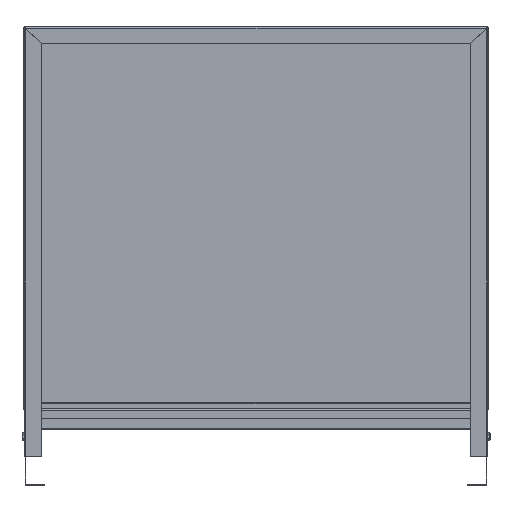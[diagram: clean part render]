
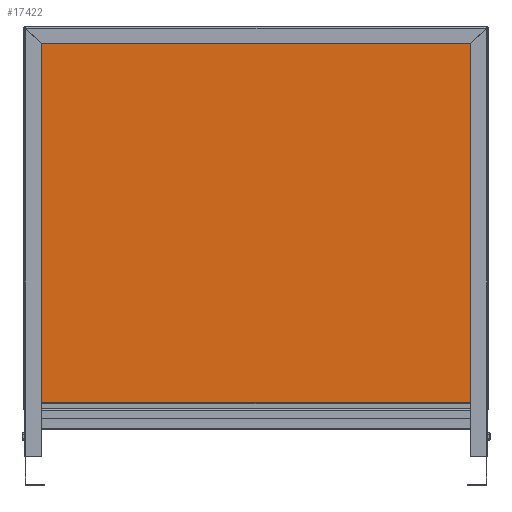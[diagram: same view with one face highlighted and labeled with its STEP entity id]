
A CAD part, front view. The second image highlights one B-rep face of the part: STEP entity #17422.
In plain terms, the highlighted planar face has unit normal (0, -1, 0).
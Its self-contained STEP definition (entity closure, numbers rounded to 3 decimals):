
#12334=CARTESIAN_POINT('',(-325.5,0.8,81.8));
#12335=VERTEX_POINT('',#12334);
#12368=CARTESIAN_POINT('',(-347.771,0.8,647.2));
#12369=VERTEX_POINT('',#12368);
#12399=CARTESIAN_POINT('',(-325.5,0.8,624.929));
#12400=VERTEX_POINT('',#12399);
#12407=CARTESIAN_POINT('',(-325.5,0.8,624.929));
#12408=DIRECTION('',(-0.707,0.,0.707));
#12409=VECTOR('',#12408,31.496);
#12410=LINE('',#12407,#12409);
#12411=EDGE_CURVE('',#12400,#12369,#12410,.T.);
#12436=CARTESIAN_POINT('',(-325.5,0.8,624.929));
#12437=DIRECTION('',(0.,-0.,-1.));
#12438=VECTOR('',#12437,543.129);
#12439=LINE('',#12436,#12438);
#12440=EDGE_CURVE('',#12400,#12335,#12439,.T.);
#12592=CARTESIAN_POINT('',(325.5,0.8,81.8));
#12593=VERTEX_POINT('',#12592);
#12608=CARTESIAN_POINT('',(347.771,0.8,647.2));
#12609=VERTEX_POINT('',#12608);
#12662=CARTESIAN_POINT('',(325.5,0.8,624.929));
#12663=VERTEX_POINT('',#12662);
#12664=CARTESIAN_POINT('',(347.771,0.8,647.2));
#12665=DIRECTION('',(-0.707,-0.,-0.707));
#12666=VECTOR('',#12665,31.496);
#12667=LINE('',#12664,#12666);
#12668=EDGE_CURVE('',#12609,#12663,#12667,.T.);
#12686=CARTESIAN_POINT('',(325.5,0.8,81.8));
#12687=DIRECTION('',(0.,0.,1.));
#12688=VECTOR('',#12687,543.129);
#12689=LINE('',#12686,#12688);
#12690=EDGE_CURVE('',#12593,#12663,#12689,.T.);
#12848=CARTESIAN_POINT('',(-347.629,0.8,647.2));
#12849=VERTEX_POINT('',#12848);
#12856=CARTESIAN_POINT('',(-325.429,0.8,625.));
#12857=VERTEX_POINT('',#12856);
#12858=CARTESIAN_POINT('',(-347.629,0.8,647.2));
#12859=DIRECTION('',(0.707,-0.,-0.707));
#12860=VECTOR('',#12859,31.396);
#12861=LINE('',#12858,#12860);
#12862=EDGE_CURVE('',#12849,#12857,#12861,.T.);
#12909=CARTESIAN_POINT('',(347.629,0.8,647.2));
#12910=VERTEX_POINT('',#12909);
#12941=CARTESIAN_POINT('',(325.429,0.8,625.));
#12942=VERTEX_POINT('',#12941);
#12949=CARTESIAN_POINT('',(325.429,0.8,625.));
#12950=DIRECTION('',(0.707,0.,0.707));
#12951=VECTOR('',#12950,31.396);
#12952=LINE('',#12949,#12951);
#12953=EDGE_CURVE('',#12942,#12910,#12952,.T.);
#12972=CARTESIAN_POINT('',(325.429,0.8,625.));
#12973=DIRECTION('',(-1.,0.,0.));
#12974=VECTOR('',#12973,650.859);
#12975=LINE('',#12972,#12974);
#12976=EDGE_CURVE('',#12942,#12857,#12975,.T.);
#17390=CARTESIAN_POINT('',(0.,0.8,0.));
#17391=DIRECTION('',(0.,1.,0.));
#17392=DIRECTION('',(-1.,0.,0.));
#17393=AXIS2_PLACEMENT_3D('',#17390,#17391,#17392);
#17394=PLANE('',#17393);
#17395=ORIENTED_EDGE('',*,*,#12411,.F.);
#17396=ORIENTED_EDGE('',*,*,#12440,.T.);
#17397=CARTESIAN_POINT('',(325.5,0.8,81.8));
#17398=DIRECTION('',(-1.,0.,0.));
#17399=VECTOR('',#17398,651.);
#17400=LINE('',#17397,#17399);
#17401=EDGE_CURVE('',#12593,#12335,#17400,.T.);
#17402=ORIENTED_EDGE('',*,*,#17401,.F.);
#17403=ORIENTED_EDGE('',*,*,#12690,.T.);
#17404=ORIENTED_EDGE('',*,*,#12668,.F.);
#17405=CARTESIAN_POINT('',(347.629,0.8,647.2));
#17406=DIRECTION('',(1.,0.,-0.));
#17407=VECTOR('',#17406,0.141);
#17408=LINE('',#17405,#17407);
#17409=EDGE_CURVE('',#12910,#12609,#17408,.T.);
#17410=ORIENTED_EDGE('',*,*,#17409,.F.);
#17411=ORIENTED_EDGE('',*,*,#12953,.F.);
#17412=ORIENTED_EDGE('',*,*,#12976,.T.);
#17413=ORIENTED_EDGE('',*,*,#12862,.F.);
#17414=CARTESIAN_POINT('',(-347.771,0.8,647.2));
#17415=DIRECTION('',(1.,0.,-0.));
#17416=VECTOR('',#17415,0.141);
#17417=LINE('',#17414,#17416);
#17418=EDGE_CURVE('',#12369,#12849,#17417,.T.);
#17419=ORIENTED_EDGE('',*,*,#17418,.F.);
#17420=EDGE_LOOP('',(#17395,#17396,#17402,#17403,#17404,#17410,#17411,#17412,#17413,#17419));
#17421=FACE_BOUND('',#17420,.T.);
#17422=ADVANCED_FACE('',(#17421),#17394,.F.);
